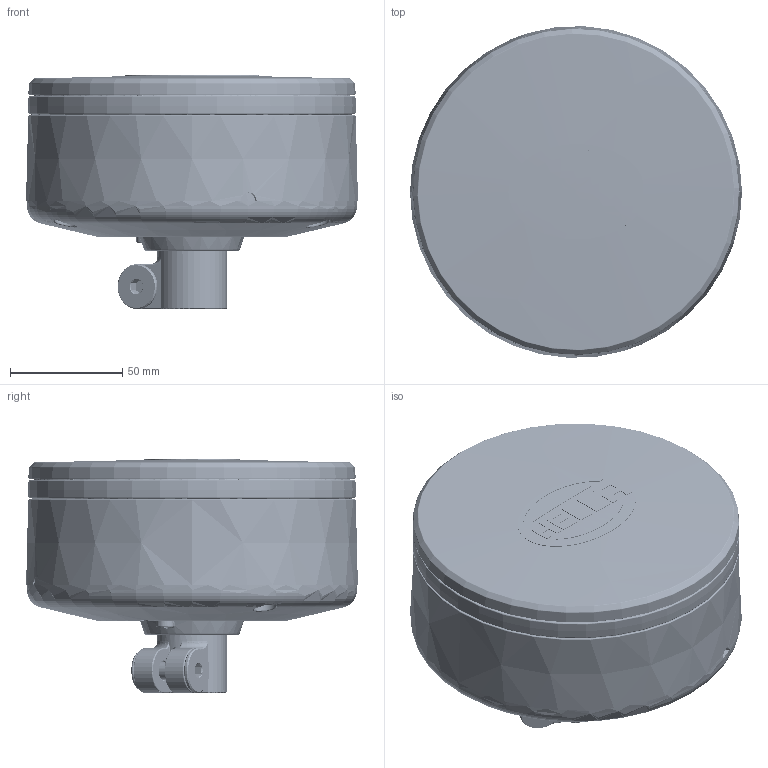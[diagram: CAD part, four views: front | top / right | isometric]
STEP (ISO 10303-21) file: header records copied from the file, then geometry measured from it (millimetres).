
FILE_DESCRIPTION(('CATIA V5 STEP Exchange','CAx-IF Rec.Pracs.--- Model Styling and Organization---1.5--- 2016-08-15','CAx-IF Rec.Pracs.---Supplemental Geometry---1.0---2011-11-01','CAx-IF Rec.Pracs.--- Composite Materials ---1.1---2010-07-15'),'2;1');
FILE_NAME('E:\tmp\ddx\2011221\HELLA_3D_data_K-LED_Rebelution_pipe_socket_455-255-01.stp','2022-01-18T07:33:01+00:00',('none'),('none'),'CATIA Version 5-6 Release 2020 SP3 HF9','CATIA V5 STEP AP214 Edition 3 v2','none');
FILE_SCHEMA(('AUTOMOTIVE_DESIGN { 1 0 10303 214 3 1 1 1 }'));
Length unit declared in the file: millimetre
Products named in the file (1): 10002638705_D10_001
Bounding box: 148.14 x 147.98 x 104.42 mm (x, y, z)
Surface area: 267321.5 mm2
Topology: 13 solids, 14 shells, 19947 faces, 43155 edges, 23349 vertices
Faces by surface type: bspline 15549, cylinder 1730, plane 1232, torus 780, cone 372, sphere 216, revolution 68
Entity records: 979200 total; most frequent: CARTESIAN_POINT 679686, ORIENTED_EDGE 85852, EDGE_CURVE 42926, B_SPLINE_CURVE_WITH_KNOTS 34813, VERTEX_POINT 23348, EDGE_LOOP 20396, ADVANCED_FACE 19947, FACE_OUTER_BOUND 19947
